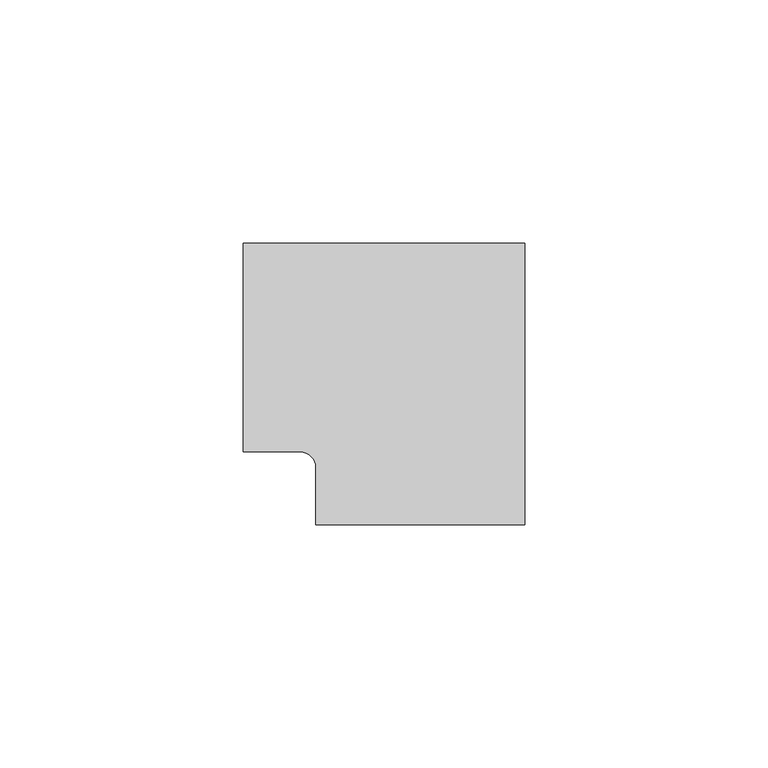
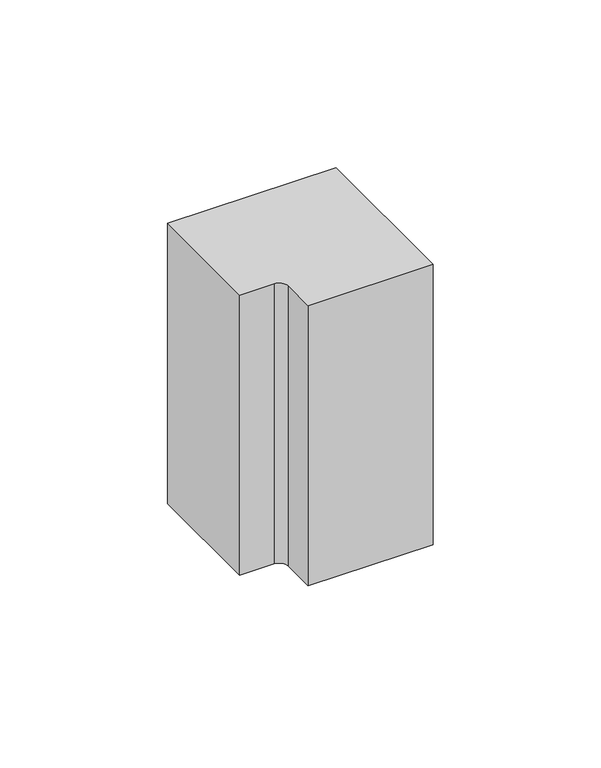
"""IFC4 building model written with IfcOpenShell, lengths in millimetres: proxy geometry, Внутренний_угол_КМВ : Внутренний угол КМВ 100х40."""

from ifc_helpers import new_model, si_unit, point, frame_2d, origin, origin_with_axes, place, context, project, spatial, polyline, circle_curve, trimmed, segment, composite_curve, outline, extrude, source, transform, mapped, element, save


def generic_models_28e29765(model_context):
    return source(origin(), model_context, "Body", "SweptSolid", [
        extrude(outline(composite_curve([segment(polyline([(-15.0, 0.0), (-15.0, 42.9885299), (43.0, 42.9885299), (43.0, -15.0), (0.0, -15.0), (0.0, -3.184906)]), True, "CONTINUOUS"), segment(trimmed(circle_curve(frame_2d((-3.184906, -3.184906)), 3.184906), [point((0.0, -3.184906))], [point((-3.184906, 0.0))], True, "CARTESIAN"), True, "CONTINUOUS"), segment(polyline([(-3.184906, 0.0), (-15.0, 0.0)]), True, "CONTINUOUS")], self_intersect=False)), origin_with_axes(), (0.0, 0.0, 1.0), 102.0303508),
    ])


if __name__ == "__main__":
    model = new_model("IFC4")
    model_context = context("Model", 3, world=origin())
    ifc_project = project(units=[si_unit("LENGTHUNIT", "METRE", prefix="MILLI")], contexts=[model_context])
    site = spatial("IfcSite", under=ifc_project)
    building = spatial("IfcBuilding", under=site)
    placement = place(None, origin())
    generic_models_shape = generic_models_28e29765(model_context)
    element("IfcBuildingElementProxy", 1, Name="Внутренний_угол_КМВ : Внутренний угол КМВ 100х40", ObjectType="Внутренний_угол_КМВ : Внутренний угол КМВ 100х40", at=placement, inside=building, context=model_context, shape_type="MappedRepresentation", body=[
        mapped(generic_models_shape, transform((0.0, 0.0, 0.0), x_axis=(1.0, 0.0, 0.0), y_axis=(0.0, 1.0, 0.0), z_axis=(0.0, 0.0, 1.0))),
    ])
    save(model, "model.ifc")
